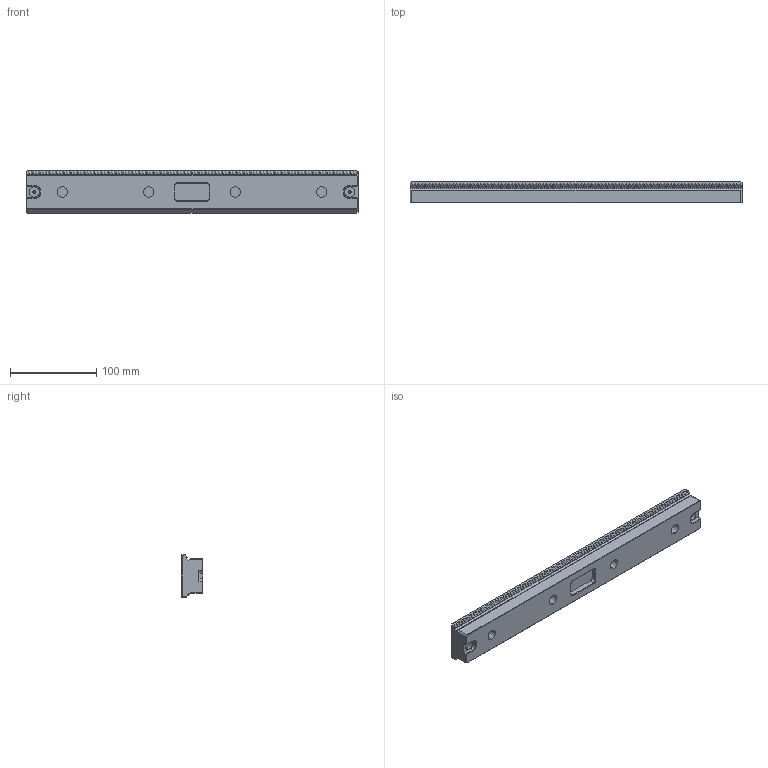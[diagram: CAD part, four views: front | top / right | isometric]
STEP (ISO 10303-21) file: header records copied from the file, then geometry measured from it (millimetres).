
FILE_DESCRIPTION (( 'STEP AP214' ), '1' );
FILE_NAME ('73385.STEP', '2023-12-18T07:56:45', ( '' ), ( '' ), 'SwSTEP 2.0', 'SolidWorks 2021', '' );
FILE_SCHEMA (( 'AUTOMOTIVE_DESIGN' ));
Length unit declared in the file: millimetre
Products named in the file (1): 73385
Bounding box: 384 x 25 x 48.6 mm (x, y, z)
Volume: 376700.2 mm3; surface area: 66159.5 mm2
Topology: 5 solids, 5 shells, 1016 faces, 2799 edges, 1822 vertices
Faces by surface type: plane 814, cylinder 82, bspline 68, cone 52
Entity records: 43117 total; most frequent: CARTESIAN_POINT 7062, ORIENTED_EDGE 5526, DIRECTION 4513, EDGE_CURVE 2763, VECTOR 2255, LINE 2255, VERTEX_POINT 1822, AXIS2_PLACEMENT_3D 1129
